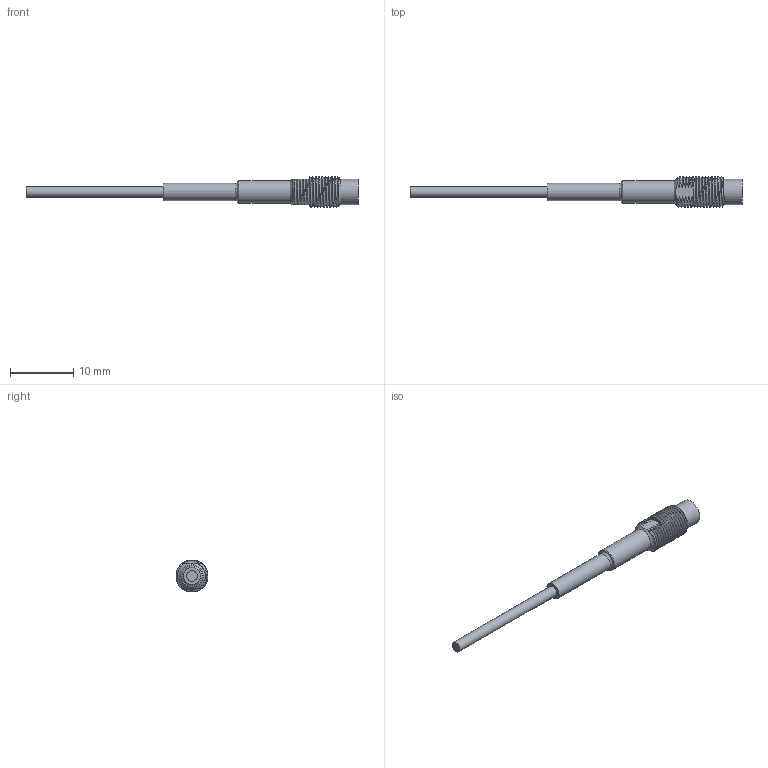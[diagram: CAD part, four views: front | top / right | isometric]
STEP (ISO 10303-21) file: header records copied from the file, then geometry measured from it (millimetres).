
FILE_DESCRIPTION( ( 'STEP AP214' ), '1' );
FILE_NAME( 'N:/Engineering/CAD_Solid/Wirbelstrom/Wirbelstromsensoren/T05/T05-G-KA-VK10.stp', '2014-02-06T08:00:00', ( ' ' ), ( ' ' ), 'XStep 1.0', ' ', ' ' );
FILE_SCHEMA( ( 'CONFIG_CONTROL_DESIGN) ( )' ) );
Length unit declared in the file: metre
Products named in the file (3): 1; 2; 3
Bounding box: 52.3 x 5 x 5 mm (x, y, z)
Surface area: 702.3 mm2 (no closed solid volume)
Topology: 0 solids, 41 shells, 42 faces, 225 edges, 216 vertices
Faces by surface type: bspline 21, cylinder 9, plane 7, cone 3, torus 2
Full cylindrical faces by diameter (mm): 1.7 x1, 2.7 x1, 3.5 x1, 4 x1
Entity records: 120393 total; most frequent: CARTESIAN_POINT 119150, ORIENTED_EDGE 212, EDGE_CURVE 212, VERTEX_POINT 212, DIRECTION 125, B_SPLINE_CURVE_WITH_KNOTS 104, FACE_BOUND 50, EDGE_LOOP 50
